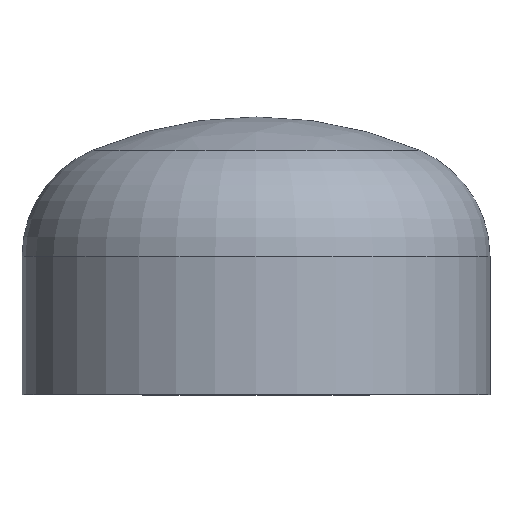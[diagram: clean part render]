
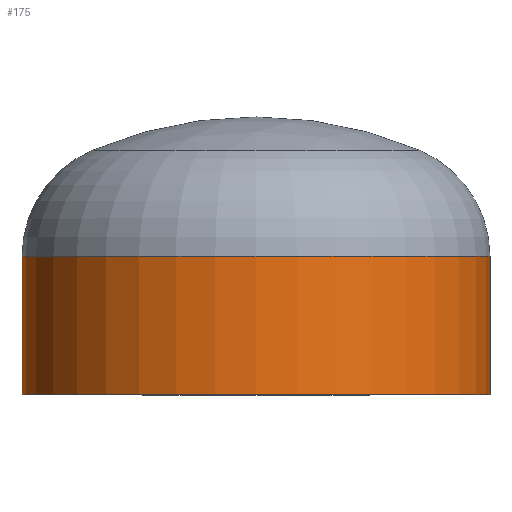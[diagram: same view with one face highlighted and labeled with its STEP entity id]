
A CAD part, top view. The second image highlights one B-rep face of the part: STEP entity #175.
In plain terms, the highlighted cylindrical face has radius 254 mm (diameter 508 mm), a partial arc.
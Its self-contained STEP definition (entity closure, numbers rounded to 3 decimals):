
#5 = VECTOR ( 'NONE', #378, 1000. ) ;
#18 = ORIENTED_EDGE ( 'NONE', *, *, #358, .F. ) ;
#22 = ORIENTED_EDGE ( 'NONE', *, *, #220, .T. ) ;
#24 = EDGE_LOOP ( 'NONE', ( #59, #22, #18, #113 ) ) ;
#32 = VERTEX_POINT ( 'NONE', #164 ) ;
#35 = VERTEX_POINT ( 'NONE', #55 ) ;
#37 = CARTESIAN_POINT ( 'NONE',  ( 254., 150., 0. ) ) ;
#39 = AXIS2_PLACEMENT_3D ( 'NONE', #388, #251, #411 ) ;
#47 = CARTESIAN_POINT ( 'NONE',  ( -254., 150., 0. ) ) ;
#54 = VERTEX_POINT ( 'NONE', #47 ) ;
#55 = CARTESIAN_POINT ( 'NONE',  ( -254., 0., 0. ) ) ;
#59 = ORIENTED_EDGE ( 'NONE', *, *, #367, .T. ) ;
#76 = VERTEX_POINT ( 'NONE', #37 ) ;
#79 = DIRECTION ( 'NONE',  ( 0., -1., 0. ) ) ;
#86 = AXIS2_PLACEMENT_3D ( 'NONE', #279, #79, #299 ) ;
#113 = ORIENTED_EDGE ( 'NONE', *, *, #379, .F. ) ;
#164 = CARTESIAN_POINT ( 'NONE',  ( 254., 0., 0. ) ) ;
#174 = CIRCLE ( 'NONE', #39, 254. ) ;
#175 = ADVANCED_FACE ( 'NONE', ( #314 ), #303, .T. ) ;
#197 = AXIS2_PLACEMENT_3D ( 'NONE', #238, #208, #400 ) ;
#208 = DIRECTION ( 'NONE',  ( 0., -1., 0. ) ) ;
#220 = EDGE_CURVE ( 'NONE', #54, #35, #243, .T. ) ;
#221 = CARTESIAN_POINT ( 'NONE',  ( 254., 0., 0. ) ) ;
#238 = CARTESIAN_POINT ( 'NONE',  ( 0., 0., 0. ) ) ;
#243 = LINE ( 'NONE', #380, #5 ) ;
#251 = DIRECTION ( 'NONE',  ( 0., -1., 0. ) ) ;
#279 = CARTESIAN_POINT ( 'NONE',  ( 0., 0., 0. ) ) ;
#299 = DIRECTION ( 'NONE',  ( 1., 0., 0. ) ) ;
#303 = CYLINDRICAL_SURFACE ( 'NONE', #197, 254. ) ;
#306 = VECTOR ( 'NONE', #363, 1000. ) ;
#314 = FACE_OUTER_BOUND ( 'NONE', #24, .T. ) ;
#318 = CIRCLE ( 'NONE', #86, 254. ) ;
#358 = EDGE_CURVE ( 'NONE', #32, #35, #318, .T. ) ;
#359 = LINE ( 'NONE', #221, #306 ) ;
#363 = DIRECTION ( 'NONE',  ( 0., -1., 0. ) ) ;
#367 = EDGE_CURVE ( 'NONE', #76, #54, #174, .T. ) ;
#378 = DIRECTION ( 'NONE',  ( 0., -1., 0. ) ) ;
#379 = EDGE_CURVE ( 'NONE', #76, #32, #359, .T. ) ;
#380 = CARTESIAN_POINT ( 'NONE',  ( -254., 0., 0. ) ) ;
#388 = CARTESIAN_POINT ( 'NONE',  ( 0., 150., 0. ) ) ;
#400 = DIRECTION ( 'NONE',  ( 1., 0., 0. ) ) ;
#411 = DIRECTION ( 'NONE',  ( 1., 0., 0. ) ) ;
